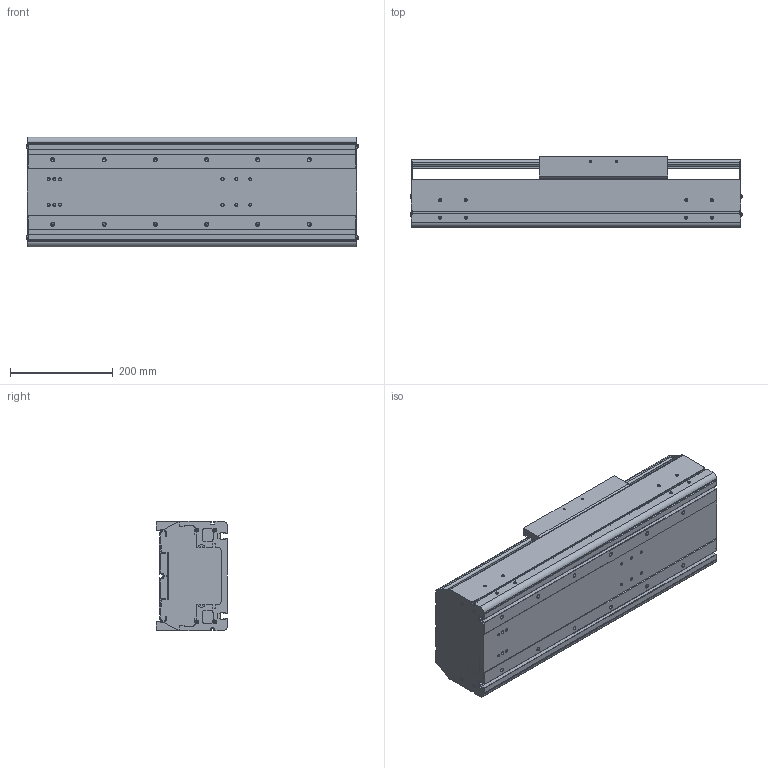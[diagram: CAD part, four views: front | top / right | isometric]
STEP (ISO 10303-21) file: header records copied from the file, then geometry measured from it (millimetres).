
FILE_DESCRIPTION((''),'2;1');
FILE_NAME('BE60G-ST-M_B-20_IGS_PRT','2017-06-18T',(' '),(''),'PRO/ENGINEER BY PARAMETRIC TECHNOLOGY CORPORATION, 2015030','PRO/ENGINEER BY PARAMETRIC TECHNOLOGY CORPORATION, 2015030','');
FILE_SCHEMA(('CONFIG_CONTROL_DESIGN'));
Length unit declared in the file: millimetre
Products named in the file (1): BE60G-ST-M_B-20_IGS_PRT
Bounding box: 647.4 x 140 x 214 mm (x, y, z)
Volume: 5790530 mm3; surface area: 1533329.1 mm2
Topology: 2 solids, 100 shells, 1326 faces, 3646 edges, 2386 vertices
Faces by surface type: cylinder 632, plane 570, cone 76, sphere 24, torus 24
Entity records: 43519 total; most frequent: CARTESIAN_POINT 9275, DIRECTION 7276, ORIENTED_EDGE 6764, EDGE_CURVE 3574, AXIS2_PLACEMENT_3D 2663, VERTEX_POINT 2386, VECTOR 1950, LINE 1950
